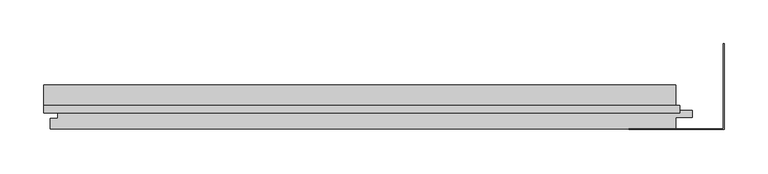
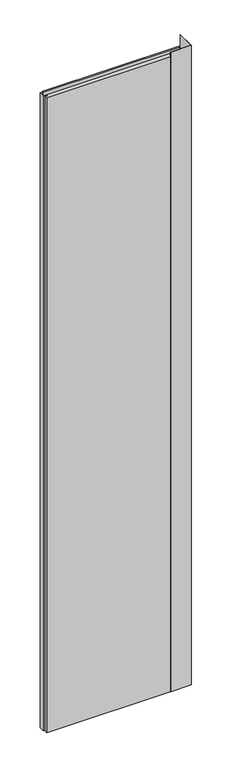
"""IFC4 building model written with IfcOpenShell, lengths in millimetres: plate geometry, Trimo_Qbiss Screen_Normal Panel-VERTICAL : HR - FB."""

from ifc_helpers import new_model, si_unit, frame, origin, place, context, project, spatial, polyline, outline, extrude, source, transform, mapped, element, save


def plate_c8dbda74(model_context):
    return source(origin(), model_context, "Body", "SweptSolid", [
        extrude(outline(polyline([(349.0, 76.0), (349.0, 173.0), (349.8, 173.0), (349.8, 75.2), (241.0, 75.2), (241.0, 76.0), (349.0, 76.0)])), frame((0.0, 0.0, 12.5), z_axis=(0.0, 0.0, 1.0), x_axis=(1.0, 0.0, 0.0)), (0.0, 0.0, 1.0), 3600.0),
        extrude(outline(polyline([(-425.0, 93.9), (-425.0, 102.6), (299.0, 102.6), (299.0, 93.9), (-425.0, 93.9)])), frame((0.0, 0.0, 3590.5), z_axis=(0.0, 0.0, 1.0), x_axis=(1.0, 0.0, 0.0)), (0.0, 0.0, 1.0), 19.0),
        extrude(outline(polyline([(295.0, 97.0), (313.5, 97.0), (313.5, 89.0), (295.0, 89.0), (295.0, 76.0), (-418.0, 76.0), (-418.0, 88.0), (-409.5, 88.0), (-409.5, 98.0), (-425.0, 98.0), (-425.0, 126.0), (295.0, 126.0), (295.0, 97.0)])), frame((0.0, 0.0, 12.5), z_axis=(0.0, 0.0, 1.0), x_axis=(1.0, 0.0, 0.0)), (0.0, 0.0, 1.0), 3575.0),
    ])


if __name__ == "__main__":
    model = new_model("IFC4")
    model_context = context("Model", 3, world=origin())
    ifc_project = project(units=[si_unit("LENGTHUNIT", "METRE", prefix="MILLI")], contexts=[model_context])
    site = spatial("IfcSite", under=ifc_project)
    building = spatial("IfcBuilding", under=site)
    placement = place(None, origin())
    plate_shape = plate_c8dbda74(model_context)
    element("IfcPlate", 1, ObjectType="Trimo_Qbiss Screen_Normal Panel-VERTICAL : HR - FB", at=placement, inside=building, context=model_context, shape_type="MappedRepresentation", body=[
        mapped(plate_shape, transform((0.0, 0.0, 0.0), x_axis=(1.0, 0.0, 0.0), y_axis=(0.0, 1.0, 0.0), z_axis=(0.0, 0.0, 1.0))),
    ])
    save(model, "model.ifc")
